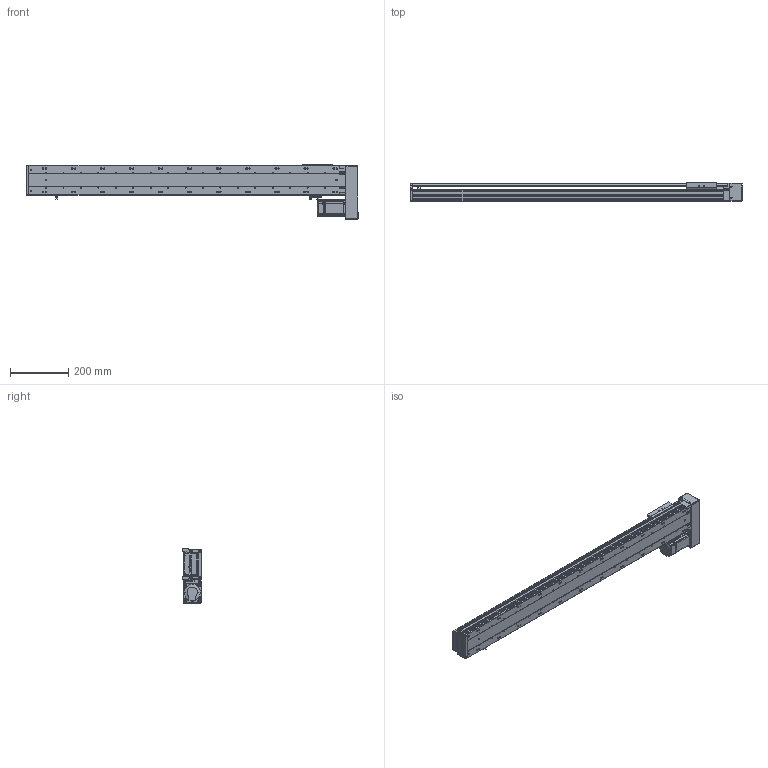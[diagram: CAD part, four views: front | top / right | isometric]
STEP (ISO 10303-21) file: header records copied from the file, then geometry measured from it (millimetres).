
FILE_DESCRIPTION (( 'STEP AP203' ), '1' );
FILE_NAME ('RY100S-L1620-900-RK.STEP', '2022-07-14T12:21:00', ( '' ), ( '' ), 'SwSTEP 2.0', 'SolidWorks 2016', '' );
FILE_SCHEMA (( 'CONFIG_CONTROL_DESIGN' ));
Length unit declared in the file: millimetre
Products named in the file (14): RY100S转折电机安装板（15双轨）; RY100S-L1620-900-RK; RY100俋离覜茼え; 100S铝滑块（15双轨单滑块）低组装; 1; RY100S-300-LK转折型材上盖(15双轨)_900; 侂狟200W萇儂; 滅袉蝶18-24; RY100S左右折电机罩（15双轨）; RY100S转折电机端支撑座(15双轨); RY100S-350-LK型材底座(低组15双轨)_900; RY100綴裔啣; 覜茼ん672; 滅袉蝶18-10
Assembly tree (15 placements, depth 3):
  RY100S-L1620-900-RK
    RY100S-350-LK型材底座(低组15双轨)_900
    RY100S-300-LK转折型材上盖(15双轨)_900
    覜茼ん672  x3
    滅袉蝶18-10
    RY100俋离覜茼え
    RY100S转折电机端支撑座(15双轨)
    滅袉蝶18-24
    RY100綴裔啣
    RY100S左右折电机罩（15双轨）
    RY100S转折电机安装板（15双轨）
    侂狟200W萇儂
      1
    100S铝滑块（15双轨单滑块）低组装
Bounding box: 1142.5 x 65 x 186.1 mm (x, y, z)
Volume: 2517820.5 mm3; surface area: 991308.7 mm2
Topology: 14 solids, 14 shells, 2403 faces, 6611 edges, 4282 vertices
Faces by surface type: plane 1257, cylinder 921, cone 137, bspline 88
Entity records: 78400 total; most frequent: CARTESIAN_POINT 20404, ORIENTED_EDGE 12066, DIRECTION 11296, EDGE_CURVE 6033, VERTEX_POINT 3962, AXIS2_PLACEMENT_3D 3792, LINE 3712, VECTOR 3712
